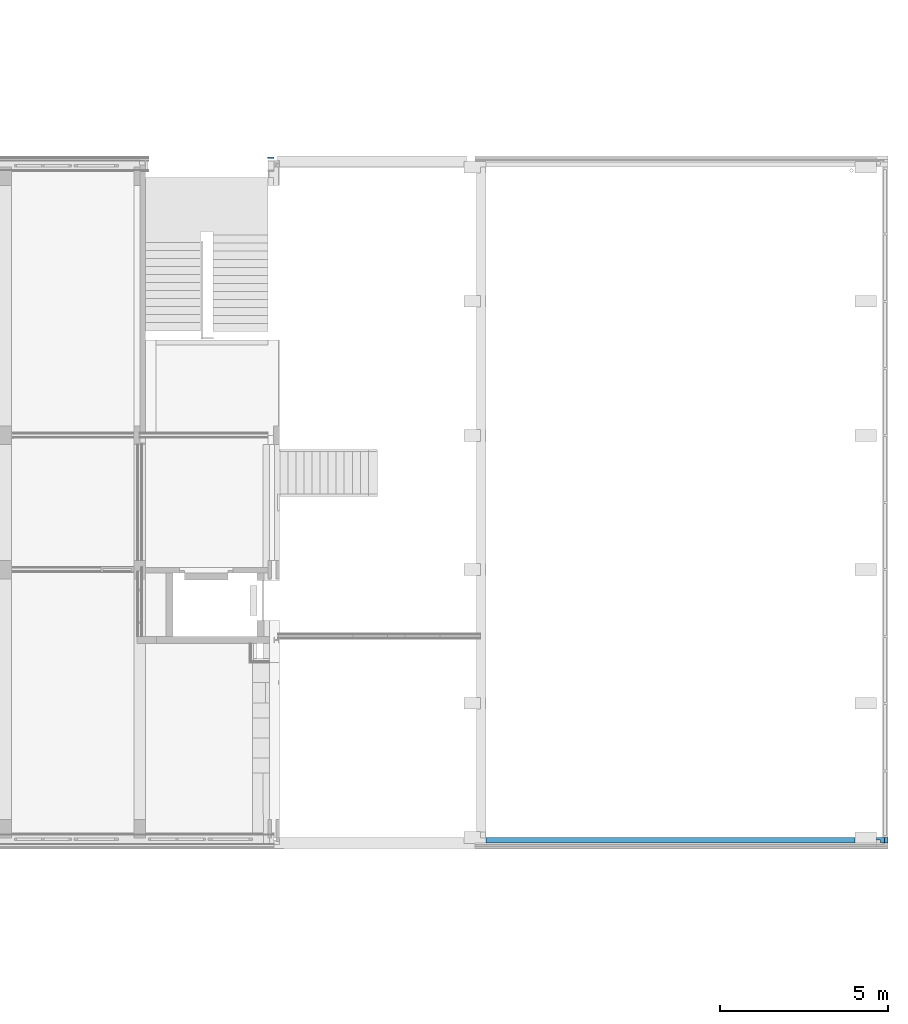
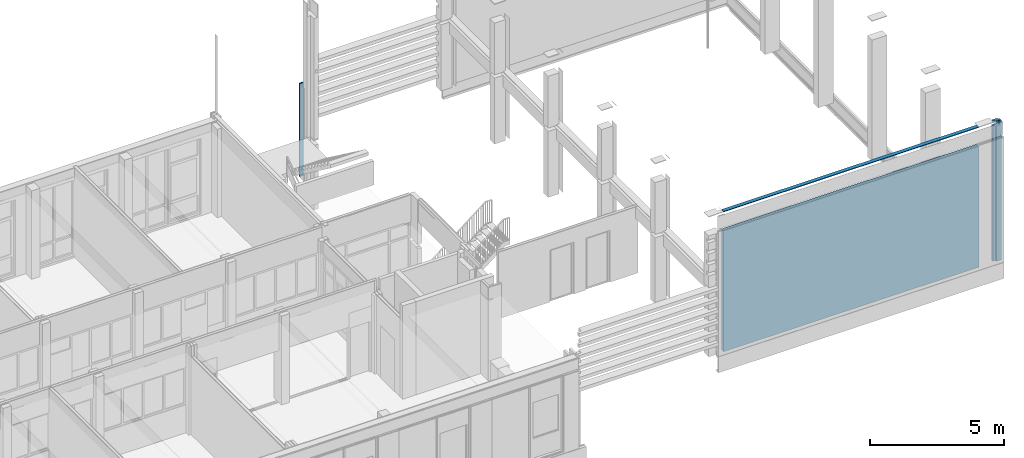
# One storey, part 61 of 94: 2 building element parts, 2 elements without a shape of their own.
"""IFC2X3 building model written with IfcOpenShell, lengths in millimetres."""

from ifc_helpers import new_model, entity, si_unit, converted_unit, derived_unit, money_unit, direction, frame, origin_with_axes, place, context, subcontext, project, spatial, faceted_brep, material, type_object, element, aggregate, save


model = new_model("IFC2X3")

# Units and contexts
model_context = context("Model", 3, precision=0.01, world=origin_with_axes(), true_north=direction((0.0, 1.0)))
body_context = subcontext(model_context, "Body", "Model", "MODEL_VIEW")
ifc_project = project(units=[si_unit("LENGTHUNIT", "METRE", prefix="MILLI"), si_unit("AREAUNIT", "SQUARE_METRE"), si_unit("VOLUMEUNIT", "CUBIC_METRE"), converted_unit("PLANEANGLEUNIT", "DEGREE", entity("IfcPlaneAngleMeasure", 0.0174532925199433), si_unit("PLANEANGLEUNIT", "RADIAN"), dimensions=[0, 0, 0, 0, 0, 0, 0]), money_unit("EUR"), converted_unit("TIMEUNIT", "Year", entity("IfcTimeMeasure", 31557600.0), si_unit("TIMEUNIT", "SECOND"), dimensions=[0, 0, 1, 0, 0, 0, 0]), si_unit("MASSUNIT", "GRAM", prefix="KILO"), si_unit("THERMODYNAMICTEMPERATUREUNIT", "DEGREE_CELSIUS"), si_unit("LUMINOUSINTENSITYUNIT", "LUMEN"), si_unit("ENERGYUNIT", "JOULE", prefix="MEGA"), derived_unit("THERMALCONDUCTANCEUNIT", [(si_unit("POWERUNIT", "WATT"), 1), (si_unit("LENGTHUNIT", "METRE"), -1), (si_unit("THERMODYNAMICTEMPERATUREUNIT", "KELVIN"), -1)]), derived_unit("SPECIFICHEATCAPACITYUNIT", [(si_unit("ENERGYUNIT", "JOULE"), 1), (si_unit("MASSUNIT", "GRAM", prefix="KILO"), -1), (si_unit("THERMODYNAMICTEMPERATUREUNIT", "KELVIN"), -1)]), derived_unit("MASSDENSITYUNIT", [(si_unit("MASSUNIT", "GRAM", prefix="KILO"), 1), (si_unit("VOLUMEUNIT", "CUBIC_METRE"), -1)])], contexts=[model_context])

# Site, building, storey
site_placement = place(None, origin_with_axes())
site = spatial("IfcSite", under=ifc_project, at=site_placement, Name="<site naam>", CompositionType="ELEMENT")
building_placement = place(site_placement, origin_with_axes())
building = spatial("IfcBuilding", under=site, at=building_placement, Name="<Naam gebouw>", CompositionType="ELEMENT")
storey_placement = place(building_placement, frame((0.0, 0.0, 4250.0), z_axis=(0.0, 0.0, 1.0), x_axis=(1.0, 0.0, 0.0)))
storey = spatial("IfcBuildingStorey", under=building, at=storey_placement, Name="01 1e verdieping", CompositionType="ELEMENT", Elevation=4250.0)

# Wall, building element part
wall_type_1 = type_object("IfcWallType", Name="metselwerk-lucht-kalkzandsteen 335 335", PredefinedType="NOTDEFINED")
wall_1_placement = place(storey_placement, frame((58000.00000000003, -324.089321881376, 2125.0), z_axis=(0.0, 0.0, 1.0), x_axis=(1.0, 0.0, 0.0)))
wall_1 = element("IfcWall", 1, at=wall_1_placement, inside=storey, type_object=wall_type_1, Name="21_Binnenwand_metselwerk-lucht-kalkzandsteen")
ifc_material_1 = material(Name="kalkzandsteen C")
building_element_part_1_placement = place(wall_1_placement, origin_with_axes())
building_element_part_1 = element("IfcBuildingElementPart", 2, at=building_element_part_1_placement, material=ifc_material_1, Name="kalkzandsteen C", context=body_context, shape_type="Brep", body=[
    faceted_brep([(325.0000000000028, 334.9999999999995, 0.0), (325.0000000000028, 335.0000000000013, 5515.000000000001), (11324.99999999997, 335.0000000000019, 5515.000000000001), (11324.99999999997, 335.0000000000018, 0.0), (325.0000000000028, 175.000000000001, 5515.000000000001), (325.0000000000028, 174.9999999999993, 0.0), (11324.99999999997, 175.0, 5515.000000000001), (11324.99999999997, 175.0000000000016, 0.0)], [[[0, 1, 2, 3]], [[4, 1, 0, 5]], [[1, 4, 6, 2]], [[3, 2, 6, 7]], [[5, 0, 3, 7]], [[4, 5, 7, 6]]]),
    faceted_brep([(325.0000000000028, 335.0000000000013, 6365.0), (325.0000000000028, 335.0000000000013, 6395.0), (11324.99999999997, 335.0000000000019, 6395.0), (11324.99999999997, 335.0000000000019, 6365.0), (325.0000000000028, 175.0000000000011, 6395.0), (325.0000000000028, 175.000000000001, 6365.0), (11324.99999999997, 175.0000000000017, 6395.0), (11324.99999999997, 175.0, 6365.0)], [[[0, 1, 2, 3]], [[4, 1, 0, 5]], [[1, 4, 6, 2]], [[3, 2, 6, 7]], [[5, 0, 3, 7]], [[4, 5, 7, 6]]]),
    faceted_brep([(11974.99999999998, 335.0000000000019, 6365.0), (11974.99999999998, 335.0000000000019, 6395.0), (12209.99999284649, 335.0000000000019, 6395.0), (12209.99999284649, 335.0000000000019, 6344.99999987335), (12310.00000429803, 335.0000000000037, 6344.99999987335), (12310.00000429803, 335.0000000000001, 5754.999961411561), (12280.00000199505, 335.0000000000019, 5754.999961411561), (12280.00000199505, 335.0000000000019, 5784.999971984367), (12249.99999969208, 335.0000000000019, 5784.999971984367), (12249.99999969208, 335.0000000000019, 5685.000062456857), (12310.00000429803, 335.0000000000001, 5685.000062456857), (12309.99999999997, 335.0000000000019, 0.0), (12189.99999969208, 335.0000000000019, 0.0), (12189.99999969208, 335.0000000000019, 20.00000000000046), (12149.99999284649, 335.0000000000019, 20.00000000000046), (12149.99999284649, 335.0000000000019, 0.0), (11974.99999999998, 335.0000000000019, 0.0), (11974.99999999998, 335.0000000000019, 5515.000000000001), (11974.99999999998, 335.0000000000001, 6175.000014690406), (12224.99999999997, 335.0000000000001, 6175.000014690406), (12224.99999999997, 335.0000000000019, 6325.000014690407), (11974.99999999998, 335.0000000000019, 6325.000014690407), (11974.99999999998, 256.7893248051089, 6395.0), (11974.99999999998, 256.7893248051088, 6325.000014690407), (11974.99999999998, 256.7893248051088, 6365.0), (12085.00036860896, 256.7893248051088, 6395.0), (12085.00036860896, 175.0000000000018, 6395.0), (12209.99999284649, 175.0000000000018, 6395.0), (12209.99999284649, 175.0, 6344.99999987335), (12310.00000429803, 175.0, 6344.99999987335), (12310.00000429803, 175.0000000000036, 5754.999961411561), (12280.00000199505, 175.0, 5754.999961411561), (12280.00000199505, 175.0, 5784.999971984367), (12249.99999969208, 175.0, 5784.999971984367), (12249.99999969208, 175.0, 5685.000062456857), (12310.00000429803, 175.0000000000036, 5685.000062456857), (12309.99999999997, 175.0000000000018, 0.0), (12189.99999969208, 175.0000000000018, 0.0), (12189.99999969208, 175.0, 20.00000000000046), (12149.99999284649, 175.0, 20.00000000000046), (12149.99999284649, 175.0000000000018, 0.0), (11974.99999999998, 256.7893248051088, 0.0), (12085.00036860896, 175.0000000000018, 0.0), (12085.00036860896, 256.7893248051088, 0.0), (11974.99999999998, 256.7893248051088, 5515.000000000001), (11974.99999999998, 256.7893248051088, 6175.000014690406), (12085.00036860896, 256.7893248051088, 6175.000014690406), (12085.00036860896, 175.0, 6175.000014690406), (12224.99999999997, 175.0, 6175.000014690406), (12224.99999999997, 175.0000000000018, 6325.000014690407), (12085.00036860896, 256.7893248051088, 6325.000014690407), (12085.00036860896, 175.0000000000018, 6325.000014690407)], [[[0, 1, 2, 3, 4, 5, 6, 7, 8, 9, 10, 11, 12, 13, 14, 15, 16, 17, 18, 19, 20, 21]], [[22, 1, 0, 21, 23, 24]], [[1, 22, 25, 26, 27, 2]], [[28, 3, 2, 27]], [[28, 29, 4, 3]], [[5, 4, 29, 30]], [[31, 6, 5, 30]], [[32, 7, 6, 31]], [[33, 8, 7, 32]], [[34, 9, 8, 33]], [[34, 35, 10, 9]], [[11, 10, 35, 36]], [[36, 37, 12, 11]], [[38, 13, 12, 37]], [[39, 14, 13, 38]], [[40, 15, 14, 39]], [[41, 16, 15, 40, 42, 43]], [[17, 16, 41, 44, 45, 18]], [[46, 47, 48, 19, 18, 45]], [[48, 49, 20, 19]], [[50, 23, 21, 20, 49, 51]], [[22, 24, 23, 50, 25]], [[26, 25, 50, 51]], [[26, 51, 49, 48, 47, 42, 40, 39, 38, 37, 36, 35, 34, 33, 32, 31, 30, 29, 28, 27]], [[47, 46, 43, 42]], [[44, 41, 43, 46, 45]]]),
])
aggregate(wall_1, [building_element_part_1])

wall_type_2 = type_object("IfcWallType", Name="HSB_285 gevelbeplating 420", PredefinedType="NOTDEFINED")
wall_2_placement = place(storey_placement, frame((51824.99946021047, 20298.00000000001, 0.0), z_axis=(0.0, 0.0, 1.0), x_axis=(1.0, 0.0, 0.0)))
wall_2 = element("IfcWall", 3, at=wall_2_placement, inside=storey, type_object=wall_type_2, Name="21_Binnenwand_HSB_285")
ifc_material_2 = material(Name="metaal - Aluminium gevelplaat")
building_element_part_2_placement = place(wall_2_placement, origin_with_axes())
building_element_part_2 = element("IfcBuildingElementPart", 4, at=building_element_part_2_placement, material=ifc_material_2, Name="metaal - Aluminium gevelplaat", context=body_context, shape_type="Brep", body=[
    faceted_brep([(175.0000141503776, -39.99999999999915, 4250.0), (175.0000141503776, 0.0, 4250.0), (0.0, 0.0, 4250.0), (0.0, -39.99999999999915, 4250.0), (175.0000141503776, -39.99999999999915, 0.0), (175.0000141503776, 0.0, 0.0), (0.0, 0.0, 0.0), (0.0, -39.99999999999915, 0.0)], [[[0, 1, 2, 3]], [[0, 4, 5, 1]], [[1, 5, 6, 2]], [[3, 2, 6, 7]], [[4, 0, 3, 7]], [[5, 4, 7, 6]]]),
])
aggregate(wall_2, [building_element_part_2])

save(model, "model.ifc")
